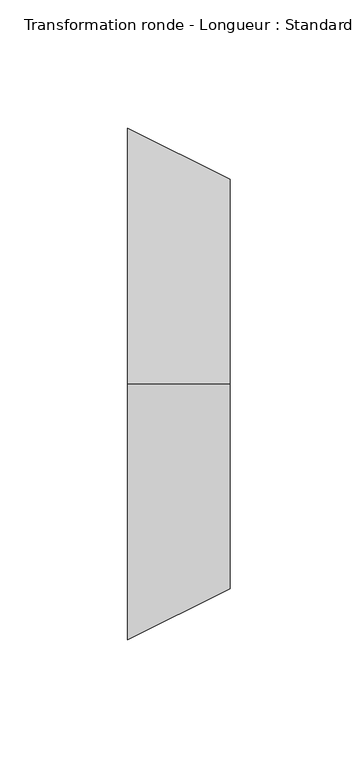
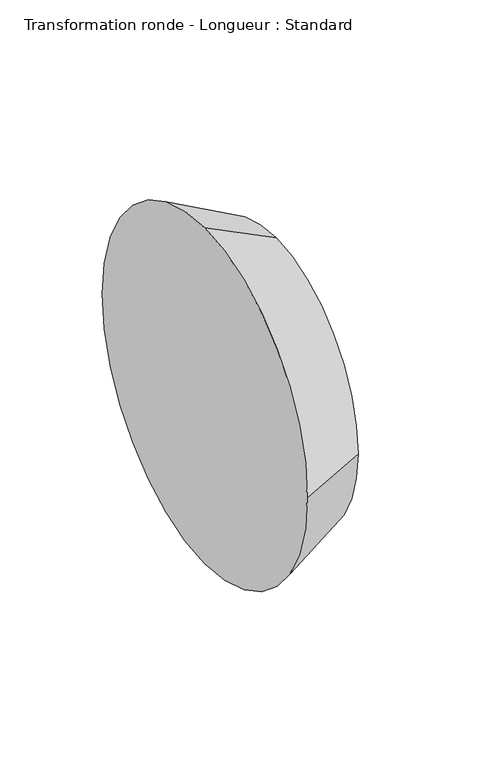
"""IFC4 building model written with IfcOpenShell, lengths in millimetres: duct fitting geometry, Transformation ronde - Longueur : Standard."""

from ifc_helpers import new_model, si_unit, frame, origin, place, context, project, spatial, circle_curve, source, transform, mapped, element, save
from ifc_brep_helpers import plane_surface, spline_surface, advanced_brep


def transformation_ronde_longueur_standard_125c8e25(model_context):
    return source(origin(), model_context, "Body", "AdvancedBrep", [
        advanced_brep(
        [(40.0, 80.0000004, 0.0), (40.0, 4e-07, 80.0), (40.0, -79.9999996, 0.0), (40.0, 4e-07, -80.0), (0.0, 100.0, 0.0), (0.0, 0.0, -100.0), (0.0, -100.0, 0.0), (0.0, 0.0, 100.0)],
        [
            (0, 1, circle_curve(frame((40.0, 4e-07, 0.0), z_axis=(1.0, 0.0, 0.0), x_axis=(0.0, 1.0, 0.0)), 80.0)),
            (1, 2, circle_curve(frame((40.0, 4e-07, 0.0), z_axis=(1.0, 0.0, 0.0), x_axis=(0.0, 1.0, 0.0)), 80.0)),
            (2, 3, circle_curve(frame((40.0, 4e-07, 0.0), z_axis=(1.0, 0.0, 0.0), x_axis=(0.0, 1.0, 0.0)), 80.0)),
            (3, 0, circle_curve(frame((40.0, 4e-07, 0.0), z_axis=(1.0, 0.0, 0.0), x_axis=(0.0, 1.0, 0.0)), 80.0)),
            (4, 5, circle_curve(frame((0.0, 0.0, 0.0), z_axis=(-1.0, 0.0, 0.0), x_axis=(0.0, 1.0, 0.0)), 100.0)),
            (5, 6, circle_curve(frame((0.0, 0.0, 0.0), z_axis=(-1.0, 0.0, 0.0), x_axis=(0.0, 1.0, 0.0)), 100.0)),
            (6, 7, circle_curve(frame((0.0, 0.0, 0.0), z_axis=(-1.0, 0.0, 0.0), x_axis=(0.0, 1.0, 0.0)), 100.0)),
            (7, 4, circle_curve(frame((0.0, 0.0, 0.0), z_axis=(-1.0, 0.0, 0.0), x_axis=(0.0, 1.0, 0.0)), 100.0)),
            (0, 4),
            (7, 1),
            (6, 2),
            (5, 3),
        ],
        [
            plane_surface(frame((40.0, 4e-07, 0.0), z_axis=(1.0, 0.0, 0.0), x_axis=(0.0, 0.0, 1.0))),
            plane_surface(frame((0.0, 0.0, 0.0), z_axis=(-1.0, 0.0, 0.0), x_axis=(0.0, 0.0, 1.0))),
            spline_surface(2, 1, [[(0.0, 100.0, 0.0), (40.0, 80.0000004, 0.0)], [(0.0, 100.0, 100.0), (40.0, 80.0000004, 80.0)], [(0.0, 0.0, 100.0), (40.0, 4e-07, 80.0)]], [3, 3], [2, 2], [0.0, 1.0], [0.0, 1.0], weights=[[1.0, 1.0], [0.7071067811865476, 0.7071067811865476], [1.0, 1.0]]),
            spline_surface(2, 1, [[(0.0, 0.0, 100.0), (40.0, 4e-07, 80.0)], [(0.0, -100.0, 100.0), (40.0, -79.9999996, 80.0)], [(0.0, -100.0, 0.0), (40.0, -79.9999996, 0.0)]], [3, 3], [2, 2], [0.0, 1.0], [0.0, 1.0], weights=[[1.0, 1.0], [0.7071067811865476, 0.7071067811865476], [1.0, 1.0]]),
            spline_surface(2, 1, [[(0.0, -100.0, 0.0), (40.0, -79.9999996, 0.0)], [(0.0, -100.0, -100.0), (40.0, -79.9999996, -80.0)], [(0.0, 0.0, -100.0), (40.0, 4e-07, -80.0)]], [3, 3], [2, 2], [0.0, 1.0], [0.0, 1.0], weights=[[1.0, 1.0], [0.7071067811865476, 0.7071067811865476], [1.0, 1.0]]),
            spline_surface(2, 1, [[(0.0, 0.0, -100.0), (40.0, 4e-07, -80.0)], [(0.0, 100.0, -100.0), (40.0, 80.0000004, -80.0)], [(0.0, 100.0, 0.0), (40.0, 80.0000004, 0.0)]], [3, 3], [2, 2], [0.0, 1.0], [0.0, 1.0], weights=[[1.0, 1.0], [0.7071067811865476, 0.7071067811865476], [1.0, 1.0]]),
        ],
        [
            (0, [[1, 2, 3, 4]]),
            (1, [[5, 6, 7, 8]]),
            (2, [[-1, 9, -8, 10]]),
            (3, [[-2, -10, -7, 11]]),
            (4, [[-3, -11, -6, 12]]),
            (5, [[-4, -12, -5, -9]]),
        ],
    ),
    ])


if __name__ == "__main__":
    model = new_model("IFC4")
    model_context = context("Model", 3, world=origin())
    ifc_project = project(units=[si_unit("LENGTHUNIT", "METRE", prefix="MILLI")], contexts=[model_context])
    site = spatial("IfcSite", under=ifc_project)
    building = spatial("IfcBuilding", under=site)
    placement = place(None, origin())
    transformation_ronde_longueur_standard_shape = transformation_ronde_longueur_standard_125c8e25(model_context)
    element("IfcDuctFitting", 1, ObjectType="Transformation ronde - Longueur : Standard", at=placement, inside=building, context=model_context, shape_type="MappedRepresentation", body=[
        mapped(transformation_ronde_longueur_standard_shape, transform((0.0, 0.0, 0.0), x_axis=(1.0, 0.0, 0.0), y_axis=(0.0, 1.0, 0.0), z_axis=(0.0, 0.0, 1.0))),
    ])
    save(model, "model.ifc")
